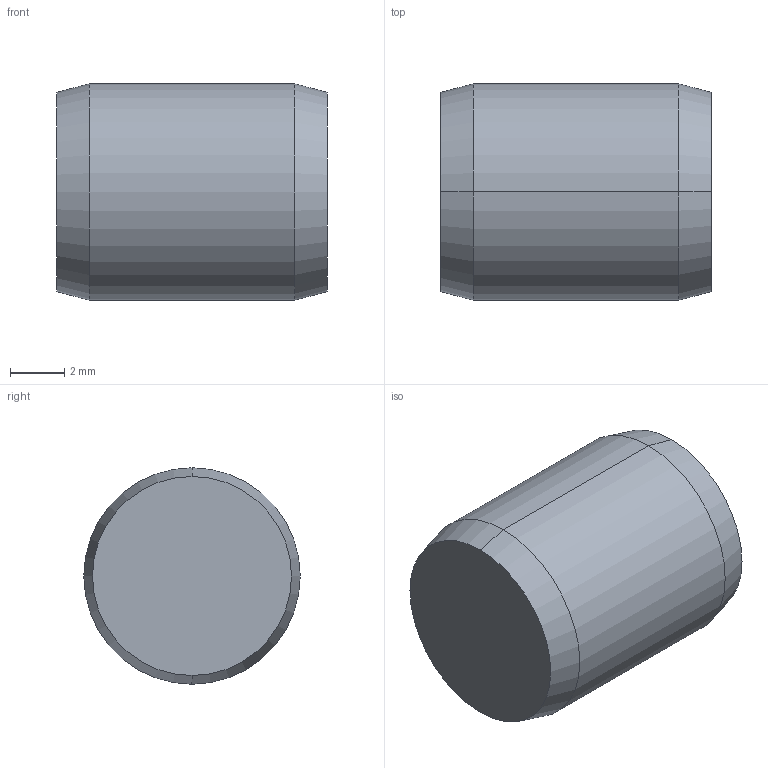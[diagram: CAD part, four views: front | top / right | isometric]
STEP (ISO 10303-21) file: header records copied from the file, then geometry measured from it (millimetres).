
FILE_DESCRIPTION (( 'STEP AP203' ), '1' );
FILE_NAME ('P1206.080-010 .step', '2017-06-14T08:24:34', ( 'User' ), ( '' ), 'SwSTEP 2.0', 'SolidWorks 2009', '' );
FILE_SCHEMA (( 'CONFIG_CONTROL_DESIGN' ));
Length unit declared in the file: millimetre
Products named in the file (1): P1206.080-010 
Bounding box: 10 x 8 x 8 mm (x, y, z)
Volume: 493.2 mm3; surface area: 336 mm2
Topology: 1 solids, 1 shells, 8 faces, 14 edges, 8 vertices
Faces by surface type: cone 4, cylinder 2, plane 2
Entity records: 271 total; most frequent: DIRECTION 40, CARTESIAN_POINT 31, ORIENTED_EDGE 28, AXIS2_PLACEMENT_3D 17, EDGE_CURVE 14, PERSON_AND_ORGANIZATION 8, CIRCLE 8, FACE_OUTER_BOUND 8
